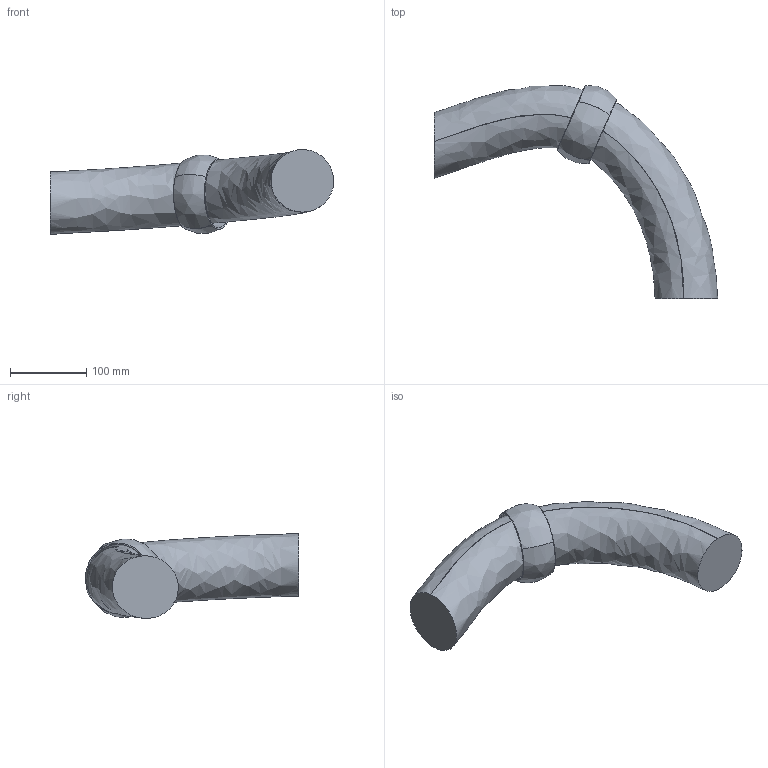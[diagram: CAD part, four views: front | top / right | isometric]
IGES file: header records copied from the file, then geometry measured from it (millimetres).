
Start section: SolidWorks IGES file using analytic representation for surfaces
Global section: file name: B:\DM\Robotics\SEROP_PROJ\Product Development\DevelopmentProjects\HD\3_Design PRMD\4_Struktur SAP o CAD\Lättmodeller\IRB8700-MH6_800-350\IRB8700-MH6_800-350_IRC5_IGES_j\IRB8700-MH6_800-350_IRC5_rev00_LINK5_CABLE.IGS; native system: SolidWorks 2014; preprocessor: SolidWorks 2014; author: sepehak; date: 150604.102946; units: millimetre
Bounding box: 371.68 x 279.33 x 111.34 mm (x, y, z)
Surface area: 167258.2 mm2 (no closed solid volume)
Topology: 0 solids, 0 shells, 60 faces, 635 edges, 635 vertices
Faces by surface type: bspline 52, revolution 8
